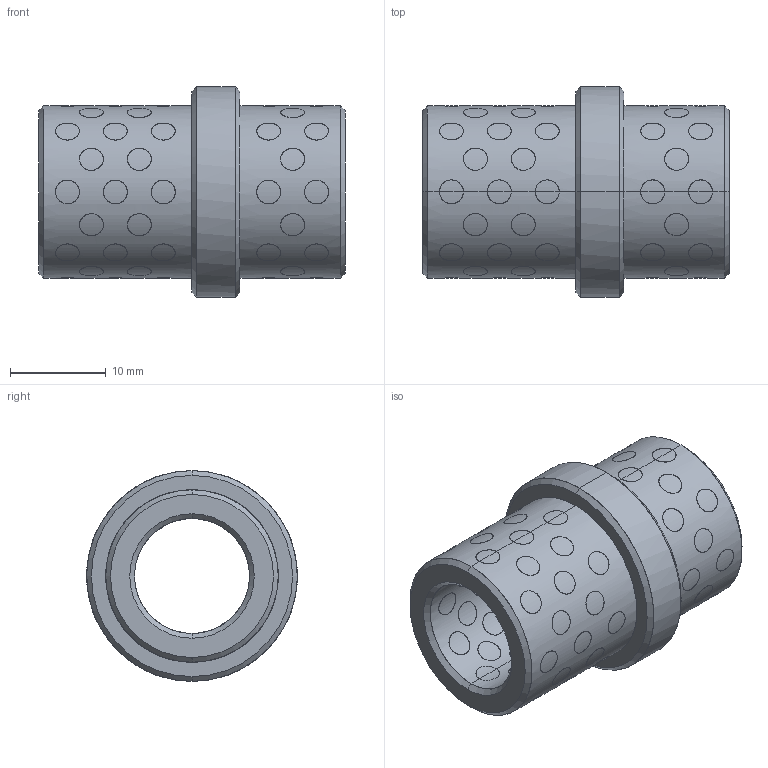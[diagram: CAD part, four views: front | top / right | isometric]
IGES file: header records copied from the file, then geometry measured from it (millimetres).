
Start section: START RECORD GO HERE.
Global section: file name: G4031232.igs; native system: DASSAULT SYSTEMES CATIA V5 R20 - www.3ds.com; preprocessor: CATIA Version 5 Release 20 ; author: r.borello; organization: CFTORINO; date: 20190624.144848; units: millimetre
Bounding box: 32 x 22 x 22 mm (x, y, z)
Surface area: 6537.8 mm2 (no closed solid volume)
Topology: 0 solids, 0 shells, 428 faces, 1872 edges, 1872 vertices
Faces by surface type: revolution 424, plane 4
